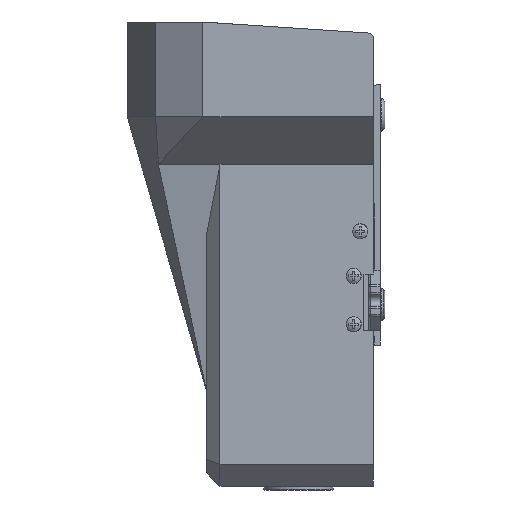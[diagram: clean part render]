
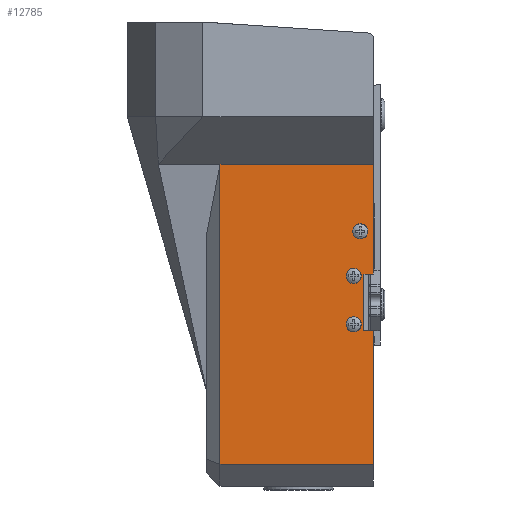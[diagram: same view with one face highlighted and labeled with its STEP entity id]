
A CAD part, left-side view. The second image highlights one B-rep face of the part: STEP entity #12785.
In plain terms, the highlighted planar face has unit normal (-1, 0, 0) as drawn and (1, 0, 0) by its records, which use the part's own axes.
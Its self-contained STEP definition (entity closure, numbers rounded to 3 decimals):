
#265=FACE_BOUND('',#2345,.T.);
#266=FACE_BOUND('',#2346,.T.);
#267=FACE_BOUND('',#2347,.T.);
#692=CIRCLE('',#14030,0.5);
#693=CIRCLE('',#14031,0.5);
#694=CIRCLE('',#14032,3.8);
#695=CIRCLE('',#14033,3.8);
#696=CIRCLE('',#14034,3.8);
#1566=FACE_OUTER_BOUND('',#2344,.T.);
#2344=EDGE_LOOP('',(#10255,#10256,#10257,#10258,#10259,#10260,#10261,#10262,
#10263,#10264));
#2345=EDGE_LOOP('',(#10265));
#2346=EDGE_LOOP('',(#10266));
#2347=EDGE_LOOP('',(#10267));
#3325=LINE('',#21424,#4445);
#3351=LINE('',#21470,#4471);
#3358=LINE('',#21494,#4478);
#3359=LINE('',#21498,#4479);
#3360=LINE('',#21501,#4480);
#3361=LINE('',#21503,#4481);
#3362=LINE('',#21505,#4482);
#3363=LINE('',#21506,#4483);
#4445=VECTOR('',#17059,1000.);
#4471=VECTOR('',#17089,1000.);
#4478=VECTOR('',#17110,1000.);
#4479=VECTOR('',#17113,1000.);
#4480=VECTOR('',#17116,1000.);
#4481=VECTOR('',#17117,1000.);
#4482=VECTOR('',#17118,1000.);
#4483=VECTOR('',#17119,1000.);
#5672=VERTEX_POINT('',#21421);
#5673=VERTEX_POINT('',#21423);
#5686=VERTEX_POINT('',#21457);
#5691=VERTEX_POINT('',#21468);
#5701=VERTEX_POINT('',#21493);
#5702=VERTEX_POINT('',#21495);
#5703=VERTEX_POINT('',#21497);
#5704=VERTEX_POINT('',#21499);
#5705=VERTEX_POINT('',#21502);
#5706=VERTEX_POINT('',#21504);
#5707=VERTEX_POINT('',#21507);
#5708=VERTEX_POINT('',#21509);
#5709=VERTEX_POINT('',#21511);
#7247=EDGE_CURVE('',#5672,#5673,#3325,.T.);
#7273=EDGE_CURVE('',#5691,#5686,#3351,.T.);
#7285=EDGE_CURVE('',#5672,#5701,#3358,.T.);
#7286=EDGE_CURVE('',#5701,#5702,#692,.F.);
#7287=EDGE_CURVE('',#5702,#5703,#3359,.T.);
#7288=EDGE_CURVE('',#5703,#5704,#693,.F.);
#7289=EDGE_CURVE('',#5704,#5686,#3360,.T.);
#7290=EDGE_CURVE('',#5705,#5691,#3361,.T.);
#7291=EDGE_CURVE('',#5705,#5706,#3362,.T.);
#7292=EDGE_CURVE('',#5706,#5673,#3363,.T.);
#7293=EDGE_CURVE('',#5707,#5707,#694,.T.);
#7294=EDGE_CURVE('',#5708,#5708,#695,.T.);
#7295=EDGE_CURVE('',#5709,#5709,#696,.T.);
#10255=ORIENTED_EDGE('',*,*,#7247,.F.);
#10256=ORIENTED_EDGE('',*,*,#7285,.T.);
#10257=ORIENTED_EDGE('',*,*,#7286,.T.);
#10258=ORIENTED_EDGE('',*,*,#7287,.T.);
#10259=ORIENTED_EDGE('',*,*,#7288,.T.);
#10260=ORIENTED_EDGE('',*,*,#7289,.T.);
#10261=ORIENTED_EDGE('',*,*,#7273,.F.);
#10262=ORIENTED_EDGE('',*,*,#7290,.F.);
#10263=ORIENTED_EDGE('',*,*,#7291,.T.);
#10264=ORIENTED_EDGE('',*,*,#7292,.T.);
#10265=ORIENTED_EDGE('',*,*,#7293,.F.);
#10266=ORIENTED_EDGE('',*,*,#7294,.F.);
#10267=ORIENTED_EDGE('',*,*,#7295,.F.);
#11603=PLANE('',#14029);
#12785=ADVANCED_FACE('',(#1566,#265,#266,#267),#11603,.T.);
#14029=AXIS2_PLACEMENT_3D('',#21492,#17108,#17109);
#14030=AXIS2_PLACEMENT_3D('',#21496,#17111,#17112);
#14031=AXIS2_PLACEMENT_3D('',#21500,#17114,#17115);
#14032=AXIS2_PLACEMENT_3D('',#21508,#17120,#17121);
#14033=AXIS2_PLACEMENT_3D('',#21510,#17122,#17123);
#14034=AXIS2_PLACEMENT_3D('',#21512,#17124,#17125);
#17059=DIRECTION('',(0.,0.,1.));
#17089=DIRECTION('',(0.,0.,1.));
#17108=DIRECTION('center_axis',(1.,0.,0.));
#17109=DIRECTION('ref_axis',(0.,0.,-1.));
#17110=DIRECTION('',(0.,1.,0.));
#17111=DIRECTION('center_axis',(1.,0.,0.));
#17112=DIRECTION('ref_axis',(0.,0.,-1.));
#17113=DIRECTION('',(0.,0.,-1.));
#17114=DIRECTION('center_axis',(1.,0.,0.));
#17115=DIRECTION('ref_axis',(0.,0.,-1.));
#17116=DIRECTION('',(0.,-1.,0.));
#17117=DIRECTION('',(0.,-1.,0.));
#17118=DIRECTION('',(0.,0.,1.));
#17119=DIRECTION('',(0.,-1.,0.));
#17120=DIRECTION('center_axis',(1.,0.,0.));
#17121=DIRECTION('ref_axis',(0.,1.,0.));
#17122=DIRECTION('center_axis',(1.,0.,0.));
#17123=DIRECTION('ref_axis',(0.,1.,0.));
#17124=DIRECTION('center_axis',(1.,0.,0.));
#17125=DIRECTION('ref_axis',(0.,1.,0.));
#21421=CARTESIAN_POINT('',(43.,0.,163.));
#21423=CARTESIAN_POINT('',(43.,0.,233.5));
#21424=CARTESIAN_POINT('',(43.,0.,75.));
#21457=CARTESIAN_POINT('',(43.,0.,133.));
#21468=CARTESIAN_POINT('',(43.,0.,75.));
#21470=CARTESIAN_POINT('',(43.,0.,75.));
#21492=CARTESIAN_POINT('Origin',(43.,242.,75.));
#21493=CARTESIAN_POINT('',(43.,5.,163.));
#21494=CARTESIAN_POINT('',(43.,242.,163.));
#21495=CARTESIAN_POINT('',(43.,5.5,162.5));
#21496=CARTESIAN_POINT('Origin',(43.,5.,162.5));
#21497=CARTESIAN_POINT('',(43.,5.5,133.5));
#21498=CARTESIAN_POINT('',(43.,5.5,75.));
#21499=CARTESIAN_POINT('',(43.,5.,133.));
#21500=CARTESIAN_POINT('Origin',(43.,5.,133.5));
#21501=CARTESIAN_POINT('',(43.,242.,133.));
#21502=CARTESIAN_POINT('',(43.,81.,75.));
#21503=CARTESIAN_POINT('',(43.,242.,75.));
#21504=CARTESIAN_POINT('',(43.,81.,233.5));
#21505=CARTESIAN_POINT('',(43.,81.,75.));
#21506=CARTESIAN_POINT('',(43.,242.,233.5));
#21507=CARTESIAN_POINT('',(43.,3.2,110.5));
#21508=CARTESIAN_POINT('Origin',(43.,7.,110.5));
#21509=CARTESIAN_POINT('',(43.,6.7,159.5));
#21510=CARTESIAN_POINT('Origin',(43.,10.5,159.5));
#21511=CARTESIAN_POINT('',(43.,6.7,134.));
#21512=CARTESIAN_POINT('Origin',(43.,10.5,134.));
